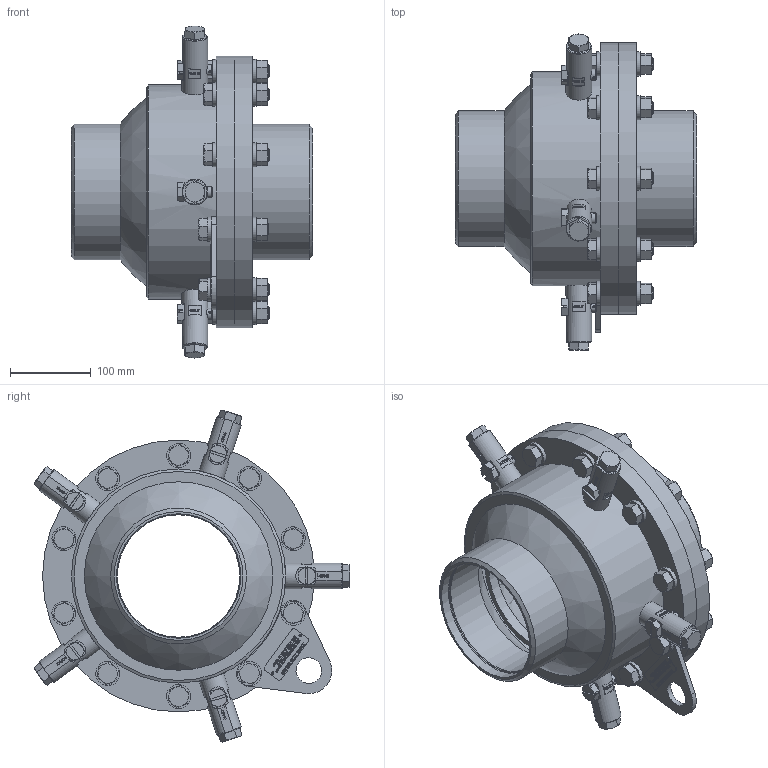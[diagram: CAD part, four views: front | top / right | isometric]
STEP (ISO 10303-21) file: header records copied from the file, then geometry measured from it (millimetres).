
FILE_DESCRIPTION(/* description */ (''),/* implementation_level */ '2;1');
FILE_NAME(/* name */ 'C:\001_Work\Designs\BALL JOINT\6 in Ball Joint Assem(Round PP)-REV1.stp',/* time_stamp */ '2015-02-23T11:04:42-05:00',/* author */ ('mleuck'),/* organization */ (''),/* preprocessor_version */ 'ST-DEVELOPER v15.2',/* originating_system */ 'Autodesk Inventor 2014',/* authorisation */ '');
FILE_SCHEMA (('AUTOMOTIVE_DESIGN { 1 0 10303 214 3 1 1 }'));
Products named in the file (18): (6 inch) Restraining Flange; (6 inch) Restraining Ring; (6 inch) Hard Packing; (6 inch) Soft Packing; (6 inch) Body-2; (6 inch) Inside Ball; ANSI B18.2.3.5M - M16 x 2 x 70; ASME B18.21.1 - 11_16(2); ANSI B 18.2.4.1 M - M16 x 2Style 1; 6 IN LIFTING LUG; 4inch- decal; ANSI B18.2.3.5M - M16 x 2 x 75; Plug-ROUND(long)-8-1-14; M14x1.5x35Long(FineThread)-shutoffvalve-(8-1-14); M16x2x30 Long-PackingBolt; IFI 512-S - 2.514; Plug Assem(NewRound)(long)(8-1-14); 6 in Ball Joint Assem(Round PP)-REV1
Bounding box: 298.45 x 391.1 x 410.99 mm (x, y, z)
Volume: 6569470.1 mm3; surface area: 1296180.1 mm2
Topology: 70 solids, 70 shells, 3020 faces, 7656 edges, 5015 vertices
Faces by surface type: plane 1814, bspline 669, cone 329, cylinder 189, torus 14, sphere 5
Full cylindrical faces by diameter (mm): 2.5 x5, 2.642 x2, 3 x2, 6 x10, 11.75 x5, 11.836 x5, 13.835 x10, 13.843 x5, 14 x5, 15 x5, 16 x15, 18 x22, 31.75 x1, 32 x10, 151.613 x1, 153.29 x1, 154.051 x1, 154.656 x1, 154.877 x1, 168.275 x2, 206.375 x1, 208.39 x1, 241.3 x7, 265.113 x1, 336.55 x2
Entity records: 52759 total; most frequent: CARTESIAN_POINT 15621, ORIENTED_EDGE 8056, DIRECTION 5564, EDGE_CURVE 4028, LINE 2784, VECTOR 2784, VERTEX_POINT 2723, EDGE_LOOP 1891
